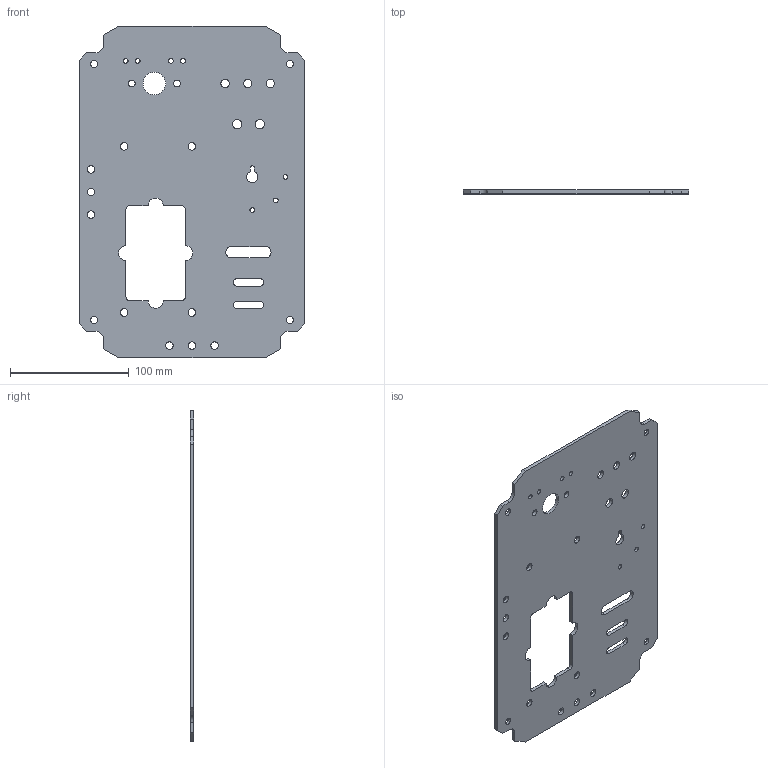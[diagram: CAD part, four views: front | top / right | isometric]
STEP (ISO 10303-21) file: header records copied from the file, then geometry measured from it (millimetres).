
FILE_DESCRIPTION(('', 'CAx-IF Rec.Pracs.---Representation and Presentation of Product Manufacturing Information (PMI)---4.0---2014-10-13'),'2;1');
FILE_NAME('nist_stc_09-242.stp', '2024-03-06T11:55:27',(' '), (' '), '', '', '');
FILE_SCHEMA(('AP242_MANAGED_MODEL_BASED_3D_ENGINEERING_MIM_LF { 1 0 10303 442 4 1 4 }'));
Length unit declared in the file: inch
Bounding box: 190.5 x 3.04 x 279.4 mm (x, y, z)
Volume: 136445.1 mm3; surface area: 96614.2 mm2
Topology: 1 solids, 1 shells, 125 faces, 501 edges, 498 vertices
Faces by surface type: plane 62, cylinder 59, cone 4
Full cylindrical faces by diameter (mm): 3.969 x7, 5.613 x2, 5.944 x4, 6.35 x10, 7.137 x3, 8.001 x2, 19.05 x1
Entity records: 10339 total; most frequent: CARTESIAN_POINT 1370, DIRECTION 1048, ORIENTED_EDGE 784, COORDINATES_LIST 724, TESSELLATED_CURVE_SET 441, EDGE_CURVE 392, AXIS2_PLACEMENT_3D 373, REPRESENTATION 358
